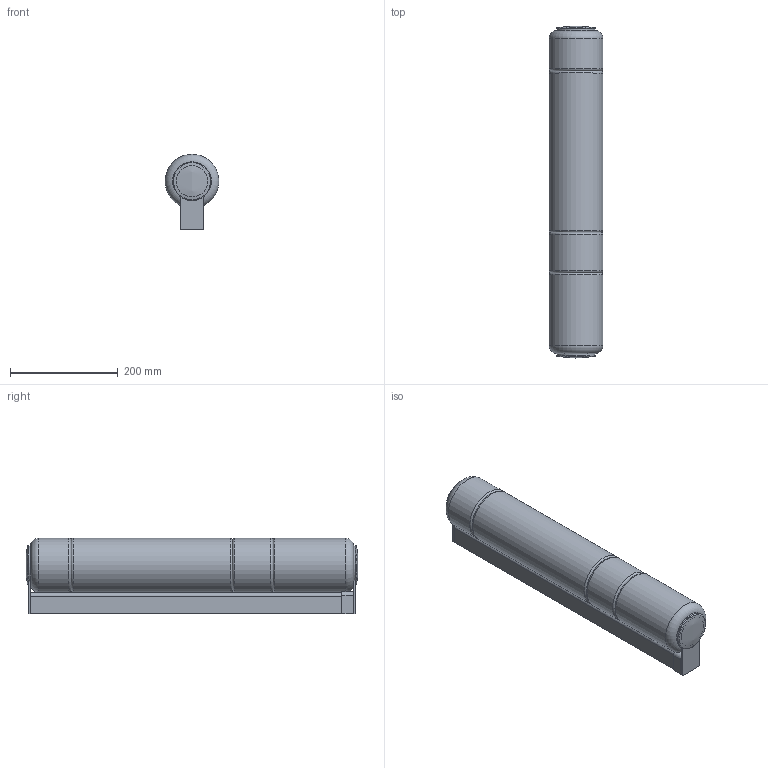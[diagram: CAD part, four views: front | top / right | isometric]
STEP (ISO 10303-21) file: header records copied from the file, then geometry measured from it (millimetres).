
FILE_DESCRIPTION(/* description */ ('STACKING P/PL 60 CE'),/* implementation_level */ '2;1');
FILE_NAME(/* name */ '343Z1LD0-0CEPD - STACKING P-PL 60.stp',/* time_stamp */ '2026-01-28T11:23:29+01:00',/* author */ ('marco.prandina'),/* organization */ (''),/* preprocessor_version */ 'ST-DEVELOPER v20.1',/* originating_system */ 'Autodesk Inventor 2026',/* authorisation */ '');
FILE_SCHEMA (('AUTOMOTIVE_DESIGN { 1 0 10303 214 3 1 1 }'));
Length unit declared in the file: millimetre
Products named in the file (49): 343Z1LD0-0CEPD; 343C667; 343C439; 343C638; GRANO M6X10 ISO 4026; 343C668; 343C635-B; 343C671; VITE TBEI M4X8 ISO 7380 ZN; 343C672; 343C657; 343C659-A; K017; VITE M4x8 SVASATA CON INTAGLIO A CROCE A4; DADO M4 A3 - DIN 934; RONDELLA DENTELLATA ESTERNA M4; K016; K015; W027-BIA; VITE AUTOFIL. TSP M3,5X19 ZN DIN 7982C; X0023-020; 00343C502; 00343C406-B; C010; K001; W029; W031; 343C670; B006; 00343C397; 00343C404; 00343C398; 00343C407-B; VITE TCB M4X8 UNI7687 ZB; VITE TCB M3X8 UNI7687 ZB; VITE TSP M4X6 ZN; VITE AUTOFIL. TB TORX ISO 14585-ST4,2-38-C; 00343V005-A; 00343V002-A; 00343V001-A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
Assembly tree (113 placements, depth 3):
  343Z1LD0-0CEPD
    343C667
    343C439
    343C638
    GRANO M6X10 ISO 4026
    343C668
    343C635-B
    343C671
    DADO M4 A3 - DIN 934  x3
    VITE TBEI M4X8 ISO 7380 ZN  x2
    RONDELLA DENTELLATA ESTERNA M4  x3
    343C672
    343C657
    343C659-A
    X0023-020  x2
    K017
    VITE M4x8 SVASATA CON INTAGLIO A CROCE A4
    W027-BIA  x2
    K016
    K015
    VITE AUTOFIL. TSP M3,5X19 ZN DIN 7982C  x2
    00343C502
      00343C406-B
      C010  x55
      K001
      W029
      W031
    343C670
    B006
    00343C397
    00343C404
    00343C398
    00343C407-B
    VITE TCB M4X8 UNI7687 ZB
    VITE TCB M3X8 UNI7687 ZB  x3
    VITE TSP M4X6 ZN
    VITE AUTOFIL. TB TORX ISO 14585-ST4,2-38-C  x2
    00343V005-A
    00343V002-A
    00343V001-A
    00343V004-A
    00343C410
    DADO M3 S2 M.00.06.19 UNI5588 DIN934
    RONDELLA DENTELLATA ESTERNA M3 UNI8842A
    K002
    A035
    W042-TRS
    Z016-A
    Z016-B
Bounding box: 100 x 616.42 x 140 mm (x, y, z)
Volume: 1310285 mm3; surface area: 1179647.3 mm2
Topology: 113 solids, 153 shells, 7372 faces, 19383 edges, 12789 vertices
Faces by surface type: plane 5326, cylinder 1195, bspline 394, cone 367, torus 77, sphere 13
Full cylindrical faces by diameter (mm): 0.88 x2, 1.02 x2, 1.9 x1, 2.459 x8, 2.5 x36, 2.75 x3, 2.9 x2, 3 x10, 3.2 x4, 3.242 x2, 3.302 x1, 3.4 x3, 3.459 x3, 3.5 x6, 3.571 x1, 3.65 x1, 3.7 x1, 3.95 x1, 4 x7, 4.2 x3, 4.3 x4, 4.5 x10, 4.917 x1, 5 x7, 5.2 x2, 5.6 x4, 5.8 x1, 6 x1, 6.5 x2, 6.8 x2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
Entity records: 136187 total; most frequent: CARTESIAN_POINT 32094, ORIENTED_EDGE 21358, DIRECTION 19462, EDGE_CURVE 10679, LINE 7174, VECTOR 7174, VERTEX_POINT 7002, AXIS2_PLACEMENT_3D 6144
